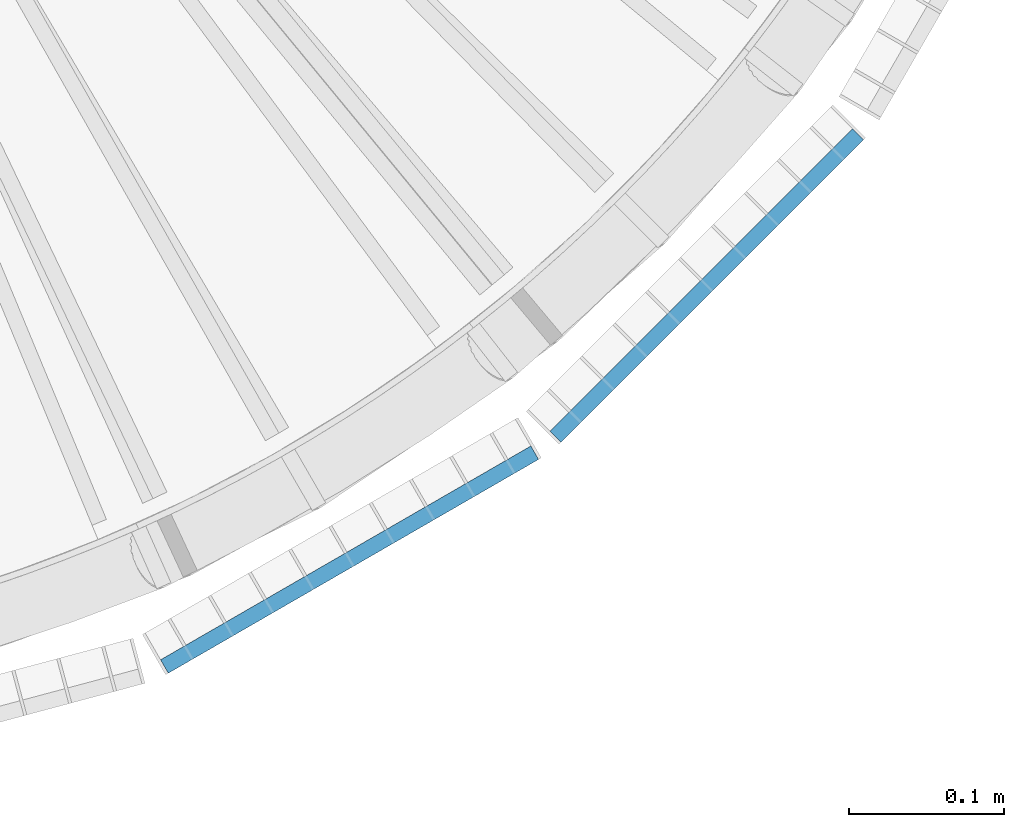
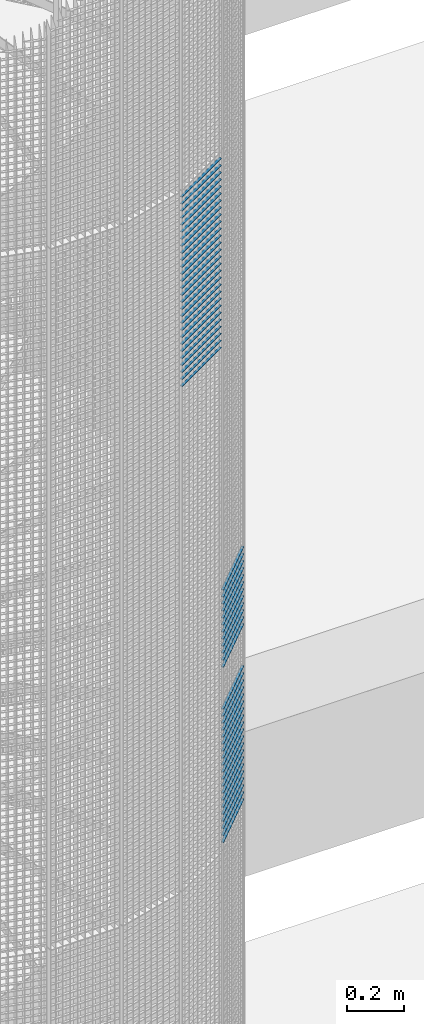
# One storey, part 231 of 1148: 60 beams, 2 elements without a shape of their own.
"""IFC2X3 building model written with IfcOpenShell, lengths in millimetres."""

import ifcopenshell
import ifcopenshell.guid

model = None  # the IFC model being written
_history = None  # IfcOwnerHistory: only IFC2X3 demands one
_inside = {}  # id of a spatial element -> (the spatial element, [elements in it])
_under = {}  # id of a project, library or spatial element -> (it, [spatial elements below it])
_declared = {}  # id of a project -> (the project, [libraries it declares])
_typed = {}  # id of a type object -> (the type object, [elements of that type])
_made_of = {}  # id of a material, layer set ... -> (it, [elements and type objects made of it])


def new_model(schema):
    """Start an empty IFC model of exactly this schema.

    Asked for "IFC4X3", IfcOpenShell would pick the latest addendum, in which some entities
    have other attributes; the version numbers below select the first issue.
    IFC2X3 requires an IfcOwnerHistory on every rooted entity: one is made here for all.
    """
    global model, _history
    if schema == "IFC4X3":
        model = ifcopenshell.file(schema_version=(4, 3, 0, 0))
    else:
        model = ifcopenshell.file(schema=schema)
    _inside.clear()
    _under.clear()
    _declared.clear()
    _typed.clear()
    _made_of.clear()
    _history = None
    if model.schema == "IFC2X3":
        org = make("IfcOrganization", Name="unknown")
        user = make(
            "IfcPersonAndOrganization",
            ThePerson=make("IfcPerson", FamilyName="unknown"),
            TheOrganization=org,
        )
        app = make(
            "IfcApplication",
            ApplicationDeveloper=org,
            Version="unknown",
            ApplicationFullName="unknown",
            ApplicationIdentifier="unknown",
        )
        _history = make(
            "IfcOwnerHistory",
            OwningUser=user,
            OwningApplication=app,
            ChangeAction="ADDED",
            CreationDate=0,
        )
    return model


def make(cls, **values):
    """One entity of the class cls with the attributes given. An attribute that is None is left unset."""
    return model.create_entity(
        cls, **{name: value for name, value in values.items() if value is not None}
    )


def rooted(cls, **values):
    """An entity with a GlobalId (a new one), such as an element, a storey or a relation."""
    return make(cls, GlobalId=ifcopenshell.guid.new(), OwnerHistory=_history, **values)


def si_unit(unit_type, name, prefix=None):
    """IfcSIUnit, for example si_unit("LENGTHUNIT", "METRE", prefix="MILLI")."""
    return make("IfcSIUnit", UnitType=unit_type, Prefix=prefix, Name=name)


def assignment(units):
    """IfcUnitAssignment: the units of a project."""
    return None if units is None else make("IfcUnitAssignment", Units=units)


def point(xyz):
    """IfcCartesianPoint."""
    return None if xyz is None else make("IfcCartesianPoint", Coordinates=xyz)


def direction(xyz):
    """IfcDirection."""
    return None if xyz is None else make("IfcDirection", DirectionRatios=xyz)


def frame(location, z_axis=None, x_axis=None):
    """IfcAxis2Placement3D, a coordinate frame: its origin and axes. An axis left out is left unset."""
    return make(
        "IfcAxis2Placement3D",
        Location=point(location),
        Axis=direction(z_axis),
        RefDirection=direction(x_axis),
    )


def frame_2d(location, x_axis=None):
    """IfcAxis2Placement2D, a coordinate frame in the plane: its origin and x axis."""
    return make(
        "IfcAxis2Placement2D", Location=point(location), RefDirection=direction(x_axis)
    )


def origin_with_axes():
    """The frame at (0, 0, 0) with the z axis (0, 0, 1) and the x axis (1, 0, 0) written out."""
    return frame((0.0, 0.0, 0.0), z_axis=(0.0, 0.0, 1.0), x_axis=(1.0, 0.0, 0.0))


def origin_2d_with_axis():
    """The frame at (0, 0) in the plane with the x axis (1, 0) written out."""
    return frame_2d((0.0, 0.0), x_axis=(1.0, 0.0))


def place(relative_to, where):
    """IfcLocalPlacement: puts the frame where relative to a parent placement (None: the world)."""
    return make(
        "IfcLocalPlacement", PlacementRelTo=relative_to, RelativePlacement=where
    )


def context(
    kind, dimensions, precision=None, world=None, true_north=None, identifier=None
):
    """IfcGeometricRepresentationContext, for example the 3D "Model" context."""
    return make(
        "IfcGeometricRepresentationContext",
        ContextIdentifier=identifier,
        ContextType=kind,
        CoordinateSpaceDimension=dimensions,
        Precision=precision,
        WorldCoordinateSystem=world,
        TrueNorth=true_north,
    )


def subcontext(parent, identifier, kind, view, scale=None):
    """IfcGeometricRepresentationSubContext, for example "Body" below "Model"."""
    return make(
        "IfcGeometricRepresentationSubContext",
        ContextIdentifier=identifier,
        ContextType=kind,
        ParentContext=parent,
        TargetScale=scale,
        TargetView=view,
    )


def project(units=None, contexts=None):
    """IfcProject with its units and contexts."""
    return rooted(
        "IfcProject",
        Name="project",
        RepresentationContexts=contexts,
        UnitsInContext=assignment(units),
    )


def spatial(cls, under=None, at=None, **own):
    """A site, building, storey or space (cls), placed at a placement, below another one or the project."""
    s = rooted(cls, ObjectPlacement=at, **own)
    if under is not None:
        _under.setdefault(under.id(), (under, []))[1].append(s)
    return s


def profile(cls, at=None, kind="AREA", **sizes):
    """A parametric profile (cls). Its sizes go by their IFC names, for example OverallWidth=200.0."""
    return make(cls, ProfileType=kind, Position=at, **sizes)


def rectangle(**sizes):
    """IfcRectangleProfileDef."""
    return profile("IfcRectangleProfileDef", **sizes)


def extrude(swept, where, along, depth):
    """IfcExtrudedAreaSolid: the profile swept, set in the frame where, extruded along a direction by depth."""
    return make(
        "IfcExtrudedAreaSolid",
        SweptArea=swept,
        Position=where,
        ExtrudedDirection=direction(along),
        Depth=depth,
    )


def shape(context_of_items, identifier, shape_type, items):
    """IfcShapeRepresentation: the items that make up one representation, for example the "Body"."""
    return make(
        "IfcShapeRepresentation",
        ContextOfItems=context_of_items,
        RepresentationIdentifier=identifier,
        RepresentationType=shape_type,
        Items=items,
    )


def material(Name=None, Category=None):
    """IfcMaterial."""
    return make("IfcMaterial", Name=Name, Category=Category)


def made_of(thing, what):
    """Note that an element or type object is made of a material, layer set ...; save() writes the relation."""
    if what is not None:
        _made_of.setdefault(what.id(), (what, []))[1].append(thing)
    return thing


def type_object(cls, material=None, **own):
    """A type object (cls), such as IfcWallType, which elements share."""
    return made_of(rooted(cls, **own), material)


def element(
    cls,
    number,
    at=None,
    inside=None,
    cuts=None,
    type_object=None,
    material=None,
    context=None,
    identifier="Body",
    shape_type=None,
    held_by="IfcProductDefinitionShape",
    body=None,
    shapes=None,
    **own,
):
    """One element of the class cls, such as IfcWall. Its Tag is "e" and its number.

    at: its placement. inside: the storey or other place that contains it. cuts: it is an
    opening in that element (IfcRelVoidsElement). A single representation is given by context,
    identifier, shape_type and body (its items); several are given by shapes. held_by: the class
    of the entity that holds the representations. save() writes the other relations.
    """
    e = rooted(cls, Tag="e%d" % number, ObjectPlacement=at, **own)
    if body is not None:
        shapes = [shape(context, identifier, shape_type, body)]
    if shapes is not None:
        e.Representation = make(held_by, Representations=shapes)
    if inside is not None:
        _inside.setdefault(inside.id(), (inside, []))[1].append(e)
    if cuts is not None:
        rooted(
            "IfcRelVoidsElement", RelatingBuildingElement=cuts, RelatedOpeningElement=e
        )
    if type_object is not None:
        _typed.setdefault(type_object.id(), (type_object, []))[1].append(e)
    return made_of(e, material)


def aggregate(whole, parts):
    """IfcRelAggregates: a whole, such as a stair, and the parts it consists of."""
    return rooted("IfcRelAggregates", RelatingObject=whole, RelatedObjects=parts)


def save(model, path):
    """Write the relations noted so far, then the file.

    IfcRelAggregates (storeys below a building ...), IfcRelContainedInSpatialStructure (elements
    in a storey), IfcRelDefinesByType, IfcRelAssociatesMaterial and IfcRelDeclares: one each for
    every whole, place, type object, material and project.
    """
    for whole, parts in _under.values():
        aggregate(whole, parts)
    for where, things in _inside.values():
        rooted(
            "IfcRelContainedInSpatialStructure",
            RelatedElements=things,
            RelatingStructure=where,
        )
    for kind, things in _typed.values():
        rooted("IfcRelDefinesByType", RelatedObjects=things, RelatingType=kind)
    for what, things in _made_of.values():
        rooted("IfcRelAssociatesMaterial", RelatedObjects=things, RelatingMaterial=what)
    for by, libraries in _declared.values():
        rooted("IfcRelDeclares", RelatingContext=by, RelatedDefinitions=libraries)
    model.write(path)


model = new_model("IFC2X3")

# Units and contexts
model_context = context("Model", 3, precision=1e-05, world=origin_with_axes())
body_context = subcontext(model_context, "Body", "Model", "MODEL_VIEW")
ifc_project = project(units=[si_unit("LENGTHUNIT", "METRE", prefix="MILLI"), si_unit("AREAUNIT", "SQUARE_METRE"), si_unit("VOLUMEUNIT", "CUBIC_METRE"), si_unit("MASSUNIT", "GRAM", prefix="KILO"), si_unit("TIMEUNIT", "SECOND"), si_unit("PLANEANGLEUNIT", "RADIAN"), si_unit("SOLIDANGLEUNIT", "STERADIAN"), si_unit("THERMODYNAMICTEMPERATUREUNIT", "DEGREE_CELSIUS"), si_unit("LUMINOUSINTENSITYUNIT", "LUMEN")], contexts=[model_context])

# Site, building, storey
site_placement = place(None, origin_with_axes())
site = spatial("IfcSite", under=ifc_project, at=site_placement, Name="Undefined", CompositionType="ELEMENT")
building_placement = place(site_placement, origin_with_axes())
building = spatial("IfcBuilding", under=site, at=building_placement, Name="Undefined", CompositionType="ELEMENT")
storey_placement = place(building_placement, origin_with_axes())
storey = spatial("IfcBuildingStorey", under=building, at=storey_placement, Name="Undefined", CompositionType="ELEMENT", Elevation=0.0)

# Assembly, beams
assembly_1_placement = place(storey_placement, origin_with_axes())
assembly_1 = element("IfcElementAssembly", 1, at=assembly_1_placement, inside=storey, Name="BORDURE", AssemblyPlace="NOTDEFINED", PredefinedType="NOTDEFINED")
ifc_material = material(Name="STEEL/S235JR")
beam_type = type_object("IfcBeamType", Name="PL2*10", PredefinedType="NOTDEFINED")
beam_1_placement = place(assembly_1_placement, frame((689.771348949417, -884.927168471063, 12780.0), z_axis=(0.707106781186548, -0.707106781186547, 0.0), x_axis=(0.707106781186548, 0.707106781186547, 0.0)))
beam_1 = element("IfcBeam", 2, at=beam_1_placement, type_object=beam_type, material=ifc_material, Name="ENTRETOISE", context=body_context, shape_type="SweptSolid", body=[
    extrude(rectangle(XDim=2.0, YDim=10.0, at=origin_2d_with_axis()), frame((275.999999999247, 9.09494701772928e-13, 1.53210777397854e-14), z_axis=(-1.0, 0.0, 0.0), x_axis=(0.0, -1.0, 0.0)), (0.0, 0.0, 1.0), 276.0),
])
beam_2_placement = place(assembly_1_placement, frame((689.771348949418, -884.927168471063, 12600.0), z_axis=(0.707106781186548, -0.707106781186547, 0.0), x_axis=(0.707106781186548, 0.707106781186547, 0.0)))
beam_2 = element("IfcBeam", 3, at=beam_2_placement, type_object=beam_type, material=ifc_material, Name="ENTRETOISE", context=body_context, shape_type="SweptSolid", body=[
    extrude(rectangle(XDim=2.0, YDim=10.0, at=origin_2d_with_axis()), frame((275.999999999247, 9.09494701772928e-13, 1.53210777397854e-14), z_axis=(-1.0, 0.0, 0.0), x_axis=(0.0, -1.0, 0.0)), (0.0, 0.0, 1.0), 276.0),
])
beam_3_placement = place(assembly_1_placement, frame((689.771348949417, -884.927168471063, 12810.0), z_axis=(0.707106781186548, -0.707106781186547, 0.0), x_axis=(0.707106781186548, 0.707106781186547, 0.0)))
beam_3 = element("IfcBeam", 4, at=beam_3_placement, type_object=beam_type, material=ifc_material, Name="ENTRETOISE", context=body_context, shape_type="SweptSolid", body=[
    extrude(rectangle(XDim=2.0, YDim=10.0, at=origin_2d_with_axis()), frame((275.999999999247, 9.09494701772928e-13, 1.53210777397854e-14), z_axis=(-1.0, 0.0, 0.0), x_axis=(0.0, -1.0, 0.0)), (0.0, 0.0, 1.0), 276.0),
])
beam_4_placement = place(assembly_1_placement, frame((689.771348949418, -884.927168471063, 12570.0), z_axis=(0.707106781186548, -0.707106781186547, 0.0), x_axis=(0.707106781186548, 0.707106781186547, 0.0)))
beam_4 = element("IfcBeam", 5, at=beam_4_placement, type_object=beam_type, material=ifc_material, Name="ENTRETOISE", context=body_context, shape_type="SweptSolid", body=[
    extrude(rectangle(XDim=2.0, YDim=10.0, at=origin_2d_with_axis()), frame((275.999999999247, 9.09494701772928e-13, 1.53210777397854e-14), z_axis=(-1.0, 0.0, 0.0), x_axis=(0.0, -1.0, 0.0)), (0.0, 0.0, 1.0), 276.0),
])
beam_5_placement = place(assembly_1_placement, frame((689.771348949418, -884.927168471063, 12540.0), z_axis=(0.707106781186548, -0.707106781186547, 0.0), x_axis=(0.707106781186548, 0.707106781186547, 0.0)))
beam_5 = element("IfcBeam", 6, at=beam_5_placement, type_object=beam_type, material=ifc_material, Name="ENTRETOISE", context=body_context, shape_type="SweptSolid", body=[
    extrude(rectangle(XDim=2.0, YDim=10.0, at=origin_2d_with_axis()), frame((275.999999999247, 9.09494701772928e-13, 1.53210777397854e-14), z_axis=(-1.0, 0.0, 0.0), x_axis=(0.0, -1.0, 0.0)), (0.0, 0.0, 1.0), 276.0),
])
beam_6_placement = place(assembly_1_placement, frame((689.771348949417, -884.927168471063, 12840.0), z_axis=(0.707106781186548, -0.707106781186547, 0.0), x_axis=(0.707106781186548, 0.707106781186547, 0.0)))
beam_6 = element("IfcBeam", 7, at=beam_6_placement, type_object=beam_type, material=ifc_material, Name="ENTRETOISE", context=body_context, shape_type="SweptSolid", body=[
    extrude(rectangle(XDim=2.0, YDim=10.0, at=origin_2d_with_axis()), frame((275.999999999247, 9.09494701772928e-13, 1.53210777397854e-14), z_axis=(-1.0, 0.0, 0.0), x_axis=(0.0, -1.0, 0.0)), (0.0, 0.0, 1.0), 276.0),
])
beam_7_placement = place(assembly_1_placement, frame((689.771348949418, -884.927168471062, 12510.0), z_axis=(0.707106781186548, -0.707106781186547, 0.0), x_axis=(0.707106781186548, 0.707106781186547, 0.0)))
beam_7 = element("IfcBeam", 8, at=beam_7_placement, type_object=beam_type, material=ifc_material, Name="ENTRETOISE", context=body_context, shape_type="SweptSolid", body=[
    extrude(rectangle(XDim=2.0, YDim=10.0, at=origin_2d_with_axis()), frame((275.999999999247, 9.09494701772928e-13, 1.53210777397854e-14), z_axis=(-1.0, 0.0, 0.0), x_axis=(0.0, -1.0, 0.0)), (0.0, 0.0, 1.0), 276.0),
])
beam_8_placement = place(assembly_1_placement, frame((689.771348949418, -884.927168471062, 12480.0), z_axis=(0.707106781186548, -0.707106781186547, 0.0), x_axis=(0.707106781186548, 0.707106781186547, 0.0)))
beam_8 = element("IfcBeam", 9, at=beam_8_placement, type_object=beam_type, material=ifc_material, Name="ENTRETOISE", context=body_context, shape_type="SweptSolid", body=[
    extrude(rectangle(XDim=2.0, YDim=10.0, at=origin_2d_with_axis()), frame((275.999999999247, 9.09494701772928e-13, 1.53210777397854e-14), z_axis=(-1.0, 0.0, 0.0), x_axis=(0.0, -1.0, 0.0)), (0.0, 0.0, 1.0), 276.0),
])
beam_9_placement = place(assembly_1_placement, frame((689.771348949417, -884.927168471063, 12870.0), z_axis=(0.707106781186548, -0.707106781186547, 0.0), x_axis=(0.707106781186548, 0.707106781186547, 0.0)))
beam_9 = element("IfcBeam", 10, at=beam_9_placement, type_object=beam_type, material=ifc_material, Name="ENTRETOISE", context=body_context, shape_type="SweptSolid", body=[
    extrude(rectangle(XDim=2.0, YDim=10.0, at=origin_2d_with_axis()), frame((275.999999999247, 9.09494701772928e-13, 1.53210777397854e-14), z_axis=(-1.0, 0.0, 0.0), x_axis=(0.0, -1.0, 0.0)), (0.0, 0.0, 1.0), 276.0),
])
beam_10_placement = place(assembly_1_placement, frame((689.771348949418, -884.927168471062, 12450.0), z_axis=(0.707106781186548, -0.707106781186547, 0.0), x_axis=(0.707106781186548, 0.707106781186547, 0.0)))
beam_10 = element("IfcBeam", 11, at=beam_10_placement, type_object=beam_type, material=ifc_material, Name="ENTRETOISE", context=body_context, shape_type="SweptSolid", body=[
    extrude(rectangle(XDim=2.0, YDim=10.0, at=origin_2d_with_axis()), frame((275.999999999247, 9.09494701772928e-13, 1.53210777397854e-14), z_axis=(-1.0, 0.0, 0.0), x_axis=(0.0, -1.0, 0.0)), (0.0, 0.0, 1.0), 276.0),
])
beam_11_placement = place(assembly_1_placement, frame((689.771348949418, -884.927168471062, 12420.0), z_axis=(0.707106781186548, -0.707106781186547, 0.0), x_axis=(0.707106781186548, 0.707106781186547, 0.0)))
beam_11 = element("IfcBeam", 12, at=beam_11_placement, type_object=beam_type, material=ifc_material, Name="ENTRETOISE", context=body_context, shape_type="SweptSolid", body=[
    extrude(rectangle(XDim=2.0, YDim=10.0, at=origin_2d_with_axis()), frame((275.999999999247, 9.09494701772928e-13, 1.53210777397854e-14), z_axis=(-1.0, 0.0, 0.0), x_axis=(0.0, -1.0, 0.0)), (0.0, 0.0, 1.0), 276.0),
])
beam_12_placement = place(assembly_1_placement, frame((689.771348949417, -884.927168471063, 12900.0), z_axis=(0.707106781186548, -0.707106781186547, 0.0), x_axis=(0.707106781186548, 0.707106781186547, 0.0)))
beam_12 = element("IfcBeam", 13, at=beam_12_placement, type_object=beam_type, material=ifc_material, Name="ENTRETOISE", context=body_context, shape_type="SweptSolid", body=[
    extrude(rectangle(XDim=2.0, YDim=10.0, at=origin_2d_with_axis()), frame((275.999999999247, 9.09494701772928e-13, 1.53210777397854e-14), z_axis=(-1.0, 0.0, 0.0), x_axis=(0.0, -1.0, 0.0)), (0.0, 0.0, 1.0), 276.0),
])
beam_13_placement = place(assembly_1_placement, frame((689.771348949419, -884.927168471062, 12390.0), z_axis=(0.707106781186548, -0.707106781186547, 0.0), x_axis=(0.707106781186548, 0.707106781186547, 0.0)))
beam_13 = element("IfcBeam", 14, at=beam_13_placement, type_object=beam_type, material=ifc_material, Name="ENTRETOISE", context=body_context, shape_type="SweptSolid", body=[
    extrude(rectangle(XDim=2.0, YDim=10.0, at=origin_2d_with_axis()), frame((275.999999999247, 9.09494701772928e-13, 1.53210777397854e-14), z_axis=(-1.0, 0.0, 0.0), x_axis=(0.0, -1.0, 0.0)), (0.0, 0.0, 1.0), 276.0),
])
beam_14_placement = place(assembly_1_placement, frame((689.771348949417, -884.927168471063, 12930.0), z_axis=(0.707106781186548, -0.707106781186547, 0.0), x_axis=(0.707106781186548, 0.707106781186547, 0.0)))
beam_14 = element("IfcBeam", 15, at=beam_14_placement, type_object=beam_type, material=ifc_material, Name="ENTRETOISE", context=body_context, shape_type="SweptSolid", body=[
    extrude(rectangle(XDim=2.0, YDim=10.0, at=origin_2d_with_axis()), frame((275.999999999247, 9.09494701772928e-13, 1.53210777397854e-14), z_axis=(-1.0, 0.0, 0.0), x_axis=(0.0, -1.0, 0.0)), (0.0, 0.0, 1.0), 276.0),
])
beam_15_placement = place(assembly_1_placement, frame((689.771348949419, -884.927168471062, 12360.0), z_axis=(0.707106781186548, -0.707106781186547, 0.0), x_axis=(0.707106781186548, 0.707106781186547, 0.0)))
beam_15 = element("IfcBeam", 16, at=beam_15_placement, type_object=beam_type, material=ifc_material, Name="ENTRETOISE", context=body_context, shape_type="SweptSolid", body=[
    extrude(rectangle(XDim=2.0, YDim=10.0, at=origin_2d_with_axis()), frame((275.999999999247, 9.09494701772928e-13, 1.53210777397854e-14), z_axis=(-1.0, 0.0, 0.0), x_axis=(0.0, -1.0, 0.0)), (0.0, 0.0, 1.0), 276.0),
])
beam_16_placement = place(assembly_1_placement, frame((689.771348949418, -884.927168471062, 12330.0), z_axis=(0.707106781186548, -0.707106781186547, 0.0), x_axis=(0.707106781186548, 0.707106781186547, 0.0)))
beam_16 = element("IfcBeam", 17, at=beam_16_placement, type_object=beam_type, material=ifc_material, Name="ENTRETOISE", context=body_context, shape_type="SweptSolid", body=[
    extrude(rectangle(XDim=2.0, YDim=10.0, at=origin_2d_with_axis()), frame((275.999999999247, 9.09494701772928e-13, 1.53210777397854e-14), z_axis=(-1.0, 0.0, 0.0), x_axis=(0.0, -1.0, 0.0)), (0.0, 0.0, 1.0), 276.0),
])
beam_17_placement = place(assembly_1_placement, frame((689.771348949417, -884.927168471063, 12960.0), z_axis=(0.707106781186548, -0.707106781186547, 0.0), x_axis=(0.707106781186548, 0.707106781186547, 0.0)))
beam_17 = element("IfcBeam", 18, at=beam_17_placement, type_object=beam_type, material=ifc_material, Name="ENTRETOISE", context=body_context, shape_type="SweptSolid", body=[
    extrude(rectangle(XDim=2.0, YDim=10.0, at=origin_2d_with_axis()), frame((275.999999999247, 9.09494701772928e-13, 1.53210777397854e-14), z_axis=(-1.0, 0.0, 0.0), x_axis=(0.0, -1.0, 0.0)), (0.0, 0.0, 1.0), 276.0),
])
beam_18_placement = place(assembly_1_placement, frame((689.771348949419, -884.927168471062, 12300.0), z_axis=(0.707106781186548, -0.707106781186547, 0.0), x_axis=(0.707106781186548, 0.707106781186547, 0.0)))
beam_18 = element("IfcBeam", 19, at=beam_18_placement, type_object=beam_type, material=ifc_material, Name="ENTRETOISE", context=body_context, shape_type="SweptSolid", body=[
    extrude(rectangle(XDim=2.0, YDim=10.0, at=origin_2d_with_axis()), frame((275.999999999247, 9.09494701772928e-13, 1.53210777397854e-14), z_axis=(-1.0, 0.0, 0.0), x_axis=(0.0, -1.0, 0.0)), (0.0, 0.0, 1.0), 276.0),
])
beam_19_placement = place(assembly_1_placement, frame((689.771348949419, -884.927168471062, 12270.0), z_axis=(0.707106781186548, -0.707106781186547, 0.0), x_axis=(0.707106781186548, 0.707106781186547, 0.0)))
beam_19 = element("IfcBeam", 20, at=beam_19_placement, type_object=beam_type, material=ifc_material, Name="ENTRETOISE", context=body_context, shape_type="SweptSolid", body=[
    extrude(rectangle(XDim=2.0, YDim=10.0, at=origin_2d_with_axis()), frame((275.999999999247, 9.09494701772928e-13, 1.53210777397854e-14), z_axis=(-1.0, 0.0, 0.0), x_axis=(0.0, -1.0, 0.0)), (0.0, 0.0, 1.0), 276.0),
])
beam_20_placement = place(assembly_1_placement, frame((689.771348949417, -884.927168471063, 12990.0), z_axis=(0.707106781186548, -0.707106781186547, 0.0), x_axis=(0.707106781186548, 0.707106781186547, 0.0)))
beam_20 = element("IfcBeam", 21, at=beam_20_placement, type_object=beam_type, material=ifc_material, Name="ENTRETOISE", context=body_context, shape_type="SweptSolid", body=[
    extrude(rectangle(XDim=2.0, YDim=10.0, at=origin_2d_with_axis()), frame((275.999999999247, 9.09494701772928e-13, 1.53210777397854e-14), z_axis=(-1.0, 0.0, 0.0), x_axis=(0.0, -1.0, 0.0)), (0.0, 0.0, 1.0), 276.0),
])
beam_21_placement = place(assembly_1_placement, frame((689.771348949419, -884.927168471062, 12240.0), z_axis=(0.707106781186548, -0.707106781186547, 0.0), x_axis=(0.707106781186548, 0.707106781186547, 0.0)))
beam_21 = element("IfcBeam", 22, at=beam_21_placement, type_object=beam_type, material=ifc_material, Name="ENTRETOISE", context=body_context, shape_type="SweptSolid", body=[
    extrude(rectangle(XDim=2.0, YDim=10.0, at=origin_2d_with_axis()), frame((275.999999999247, 9.09494701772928e-13, 1.53210777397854e-14), z_axis=(-1.0, 0.0, 0.0), x_axis=(0.0, -1.0, 0.0)), (0.0, 0.0, 1.0), 276.0),
])
beam_22_placement = place(assembly_1_placement, frame((689.771348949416, -884.927168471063, 13020.0), z_axis=(0.707106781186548, -0.707106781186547, 0.0), x_axis=(0.707106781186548, 0.707106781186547, 0.0)))
beam_22 = element("IfcBeam", 23, at=beam_22_placement, type_object=beam_type, material=ifc_material, Name="ENTRETOISE", context=body_context, shape_type="SweptSolid", body=[
    extrude(rectangle(XDim=2.0, YDim=10.0, at=origin_2d_with_axis()), frame((275.999999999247, 9.09494701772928e-13, 1.53210777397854e-14), z_axis=(-1.0, 0.0, 0.0), x_axis=(0.0, -1.0, 0.0)), (0.0, 0.0, 1.0), 276.0),
])
beam_23_placement = place(assembly_1_placement, frame((689.771348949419, -884.927168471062, 12210.0), z_axis=(0.707106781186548, -0.707106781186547, 0.0), x_axis=(0.707106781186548, 0.707106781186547, 0.0)))
beam_23 = element("IfcBeam", 24, at=beam_23_placement, type_object=beam_type, material=ifc_material, Name="ENTRETOISE", context=body_context, shape_type="SweptSolid", body=[
    extrude(rectangle(XDim=2.0, YDim=10.0, at=origin_2d_with_axis()), frame((275.999999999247, 9.09494701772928e-13, 1.53210777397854e-14), z_axis=(-1.0, 0.0, 0.0), x_axis=(0.0, -1.0, 0.0)), (0.0, 0.0, 1.0), 276.0),
])
beam_24_placement = place(assembly_1_placement, frame((689.771348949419, -884.927168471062, 12180.0), z_axis=(0.707106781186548, -0.707106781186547, 0.0), x_axis=(0.707106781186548, 0.707106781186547, 0.0)))
beam_24 = element("IfcBeam", 25, at=beam_24_placement, type_object=beam_type, material=ifc_material, Name="ENTRETOISE", context=body_context, shape_type="SweptSolid", body=[
    extrude(rectangle(XDim=2.0, YDim=10.0, at=origin_2d_with_axis()), frame((275.999999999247, 9.09494701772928e-13, 1.53210777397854e-14), z_axis=(-1.0, 0.0, 0.0), x_axis=(0.0, -1.0, 0.0)), (0.0, 0.0, 1.0), 276.0),
])
beam_25_placement = place(assembly_1_placement, frame((689.771348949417, -884.927168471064, 13050.0), z_axis=(0.707106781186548, -0.707106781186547, 0.0), x_axis=(0.707106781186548, 0.707106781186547, 0.0)))
beam_25 = element("IfcBeam", 26, at=beam_25_placement, type_object=beam_type, material=ifc_material, Name="ENTRETOISE", context=body_context, shape_type="SweptSolid", body=[
    extrude(rectangle(XDim=2.0, YDim=10.0, at=origin_2d_with_axis()), frame((275.999999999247, 9.09494701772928e-13, 1.53210777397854e-14), z_axis=(-1.0, 0.0, 0.0), x_axis=(0.0, -1.0, 0.0)), (0.0, 0.0, 1.0), 276.0),
])
beam_26_placement = place(assembly_1_placement, frame((689.771348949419, -884.927168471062, 12150.0), z_axis=(0.707106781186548, -0.707106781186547, 0.0), x_axis=(0.707106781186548, 0.707106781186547, 0.0)))
beam_26 = element("IfcBeam", 27, at=beam_26_placement, type_object=beam_type, material=ifc_material, Name="ENTRETOISE", context=body_context, shape_type="SweptSolid", body=[
    extrude(rectangle(XDim=2.0, YDim=10.0, at=origin_2d_with_axis()), frame((275.999999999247, 9.09494701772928e-13, 1.53210777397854e-14), z_axis=(-1.0, 0.0, 0.0), x_axis=(0.0, -1.0, 0.0)), (0.0, 0.0, 1.0), 276.0),
])
beam_27_placement = place(assembly_1_placement, frame((689.771348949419, -884.927168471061, 12120.0), z_axis=(0.707106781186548, -0.707106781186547, 0.0), x_axis=(0.707106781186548, 0.707106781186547, 0.0)))
beam_27 = element("IfcBeam", 28, at=beam_27_placement, type_object=beam_type, material=ifc_material, Name="ENTRETOISE", context=body_context, shape_type="SweptSolid", body=[
    extrude(rectangle(XDim=2.0, YDim=10.0, at=origin_2d_with_axis()), frame((275.999999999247, 9.09494701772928e-13, 1.53210777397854e-14), z_axis=(-1.0, 0.0, 0.0), x_axis=(0.0, -1.0, 0.0)), (0.0, 0.0, 1.0), 276.0),
])
beam_28_placement = place(assembly_1_placement, frame((689.771348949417, -884.927168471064, 13080.0), z_axis=(0.707106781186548, -0.707106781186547, 0.0), x_axis=(0.707106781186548, 0.707106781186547, 0.0)))
beam_28 = element("IfcBeam", 29, at=beam_28_placement, type_object=beam_type, material=ifc_material, Name="ENTRETOISE", context=body_context, shape_type="SweptSolid", body=[
    extrude(rectangle(XDim=2.0, YDim=10.0, at=origin_2d_with_axis()), frame((275.999999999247, 9.09494701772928e-13, 1.53210777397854e-14), z_axis=(-1.0, 0.0, 0.0), x_axis=(0.0, -1.0, 0.0)), (0.0, 0.0, 1.0), 276.0),
])
beam_29_placement = place(assembly_1_placement, frame((689.771348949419, -884.927168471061, 12090.0), z_axis=(0.707106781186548, -0.707106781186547, 0.0), x_axis=(0.707106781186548, 0.707106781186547, 0.0)))
beam_29 = element("IfcBeam", 30, at=beam_29_placement, type_object=beam_type, material=ifc_material, Name="ENTRETOISE", context=body_context, shape_type="SweptSolid", body=[
    extrude(rectangle(XDim=2.0, YDim=10.0, at=origin_2d_with_axis()), frame((275.999999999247, 9.09494701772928e-13, 1.53210777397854e-14), z_axis=(-1.0, 0.0, 0.0), x_axis=(0.0, -1.0, 0.0)), (0.0, 0.0, 1.0), 276.0),
])
beam_30_placement = place(assembly_1_placement, frame((689.771348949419, -884.927168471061, 12060.0), z_axis=(0.707106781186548, -0.707106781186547, 0.0), x_axis=(0.707106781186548, 0.707106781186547, 0.0)))
beam_30 = element("IfcBeam", 31, at=beam_30_placement, type_object=beam_type, material=ifc_material, Name="ENTRETOISE", context=body_context, shape_type="SweptSolid", body=[
    extrude(rectangle(XDim=2.0, YDim=10.0, at=origin_2d_with_axis()), frame((275.999999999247, 9.09494701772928e-13, 1.53210777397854e-14), z_axis=(-1.0, 0.0, 0.0), x_axis=(0.0, -1.0, 0.0)), (0.0, 0.0, 1.0), 276.0),
])
beam_31_placement = place(assembly_1_placement, frame((689.771348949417, -884.927168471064, 13110.0), z_axis=(0.707106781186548, -0.707106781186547, 0.0), x_axis=(0.707106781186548, 0.707106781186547, 0.0)))
beam_31 = element("IfcBeam", 32, at=beam_31_placement, type_object=beam_type, material=ifc_material, Name="ENTRETOISE", context=body_context, shape_type="SweptSolid", body=[
    extrude(rectangle(XDim=2.0, YDim=10.0, at=origin_2d_with_axis()), frame((275.999999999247, 9.09494701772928e-13, 1.53210777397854e-14), z_axis=(-1.0, 0.0, 0.0), x_axis=(0.0, -1.0, 0.0)), (0.0, 0.0, 1.0), 276.0),
])
beam_32_placement = place(assembly_1_placement, frame((689.77134894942, -884.92716847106, 12030.0), z_axis=(0.707106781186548, -0.707106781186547, 0.0), x_axis=(0.707106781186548, 0.707106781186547, 0.0)))
beam_32 = element("IfcBeam", 33, at=beam_32_placement, type_object=beam_type, material=ifc_material, Name="ENTRETOISE", context=body_context, shape_type="SweptSolid", body=[
    extrude(rectangle(XDim=2.0, YDim=10.0, at=origin_2d_with_axis()), frame((275.999999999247, 9.09494701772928e-13, 1.53210777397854e-14), z_axis=(-1.0, 0.0, 0.0), x_axis=(0.0, -1.0, 0.0)), (0.0, 0.0, 1.0), 276.0),
])
aggregate(assembly_1, [beam_1, beam_2, beam_3, beam_4, beam_5, beam_6, beam_7, beam_8, beam_9, beam_10, beam_11, beam_12, beam_13, beam_14, beam_15, beam_16, beam_17, beam_18, beam_19, beam_20, beam_21, beam_22, beam_23, beam_24, beam_25, beam_26, beam_27, beam_28, beam_29, beam_30, beam_31, beam_32])

assembly_2_placement = place(storey_placement, origin_with_axes())
assembly_2 = element("IfcElementAssembly", 34, at=assembly_2_placement, inside=storey, Name="BORDURE", AssemblyPlace="NOTDEFINED", PredefinedType="NOTDEFINED")
beam_33_placement = place(assembly_2_placement, frame((437.231955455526, -1033.29996828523, 14970.0), z_axis=(0.499999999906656, -0.866025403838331, 0.0), x_axis=(0.866025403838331, 0.499999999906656, 0.0)))
beam_33 = element("IfcBeam", 35, at=beam_33_placement, type_object=beam_type, material=ifc_material, Name="ENTRETOISE", context=body_context, shape_type="SweptSolid", body=[
    extrude(rectangle(XDim=2.0, YDim=10.0, at=origin_2d_with_axis()), frame((275.999999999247, 9.09494701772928e-13, 1.53210777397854e-14), z_axis=(-1.0, 0.0, 0.0), x_axis=(0.0, -1.0, 0.0)), (0.0, 0.0, 1.0), 276.0),
])
beam_34_placement = place(assembly_2_placement, frame((437.231955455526, -1033.29996828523, 14940.0), z_axis=(0.499999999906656, -0.866025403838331, 0.0), x_axis=(0.866025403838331, 0.499999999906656, 0.0)))
beam_34 = element("IfcBeam", 36, at=beam_34_placement, type_object=beam_type, material=ifc_material, Name="ENTRETOISE", context=body_context, shape_type="SweptSolid", body=[
    extrude(rectangle(XDim=2.0, YDim=10.0, at=origin_2d_with_axis()), frame((275.999999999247, 9.09494701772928e-13, 1.53210777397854e-14), z_axis=(-1.0, 0.0, 0.0), x_axis=(0.0, -1.0, 0.0)), (0.0, 0.0, 1.0), 276.0),
])
beam_35_placement = place(assembly_2_placement, frame((437.231955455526, -1033.29996828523, 14910.0), z_axis=(0.499999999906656, -0.866025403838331, 0.0), x_axis=(0.866025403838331, 0.499999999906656, 0.0)))
beam_35 = element("IfcBeam", 37, at=beam_35_placement, type_object=beam_type, material=ifc_material, Name="ENTRETOISE", context=body_context, shape_type="SweptSolid", body=[
    extrude(rectangle(XDim=2.0, YDim=10.0, at=origin_2d_with_axis()), frame((275.999999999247, 9.09494701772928e-13, 1.53210777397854e-14), z_axis=(-1.0, 0.0, 0.0), x_axis=(0.0, -1.0, 0.0)), (0.0, 0.0, 1.0), 276.0),
])
beam_36_placement = place(assembly_2_placement, frame((437.231955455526, -1033.29996828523, 14880.0), z_axis=(0.499999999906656, -0.866025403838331, 0.0), x_axis=(0.866025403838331, 0.499999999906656, 0.0)))
beam_36 = element("IfcBeam", 38, at=beam_36_placement, type_object=beam_type, material=ifc_material, Name="ENTRETOISE", context=body_context, shape_type="SweptSolid", body=[
    extrude(rectangle(XDim=2.0, YDim=10.0, at=origin_2d_with_axis()), frame((275.999999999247, 9.09494701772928e-13, 1.53210777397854e-14), z_axis=(-1.0, 0.0, 0.0), x_axis=(0.0, -1.0, 0.0)), (0.0, 0.0, 1.0), 276.0),
])
beam_37_placement = place(assembly_2_placement, frame((437.231955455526, -1033.29996828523, 14850.0), z_axis=(0.499999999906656, -0.866025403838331, 0.0), x_axis=(0.866025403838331, 0.499999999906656, 0.0)))
beam_37 = element("IfcBeam", 39, at=beam_37_placement, type_object=beam_type, material=ifc_material, Name="ENTRETOISE", context=body_context, shape_type="SweptSolid", body=[
    extrude(rectangle(XDim=2.0, YDim=10.0, at=origin_2d_with_axis()), frame((275.999999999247, 9.09494701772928e-13, 1.53210777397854e-14), z_axis=(-1.0, 0.0, 0.0), x_axis=(0.0, -1.0, 0.0)), (0.0, 0.0, 1.0), 276.0),
])
beam_38_placement = place(assembly_2_placement, frame((437.231955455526, -1033.29996828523, 14820.0), z_axis=(0.499999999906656, -0.866025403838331, 0.0), x_axis=(0.866025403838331, 0.499999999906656, 0.0)))
beam_38 = element("IfcBeam", 40, at=beam_38_placement, type_object=beam_type, material=ifc_material, Name="ENTRETOISE", context=body_context, shape_type="SweptSolid", body=[
    extrude(rectangle(XDim=2.0, YDim=10.0, at=origin_2d_with_axis()), frame((275.999999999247, 9.09494701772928e-13, 1.53210777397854e-14), z_axis=(-1.0, 0.0, 0.0), x_axis=(0.0, -1.0, 0.0)), (0.0, 0.0, 1.0), 276.0),
])
beam_39_placement = place(assembly_2_placement, frame((437.231955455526, -1033.29996828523, 14790.0), z_axis=(0.499999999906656, -0.866025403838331, 0.0), x_axis=(0.866025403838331, 0.499999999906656, 0.0)))
beam_39 = element("IfcBeam", 41, at=beam_39_placement, type_object=beam_type, material=ifc_material, Name="ENTRETOISE", context=body_context, shape_type="SweptSolid", body=[
    extrude(rectangle(XDim=2.0, YDim=10.0, at=origin_2d_with_axis()), frame((275.999999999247, 9.09494701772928e-13, 1.53210777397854e-14), z_axis=(-1.0, 0.0, 0.0), x_axis=(0.0, -1.0, 0.0)), (0.0, 0.0, 1.0), 276.0),
])
beam_40_placement = place(assembly_2_placement, frame((437.231955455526, -1033.29996828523, 14760.0), z_axis=(0.499999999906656, -0.866025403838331, 0.0), x_axis=(0.866025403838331, 0.499999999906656, 0.0)))
beam_40 = element("IfcBeam", 42, at=beam_40_placement, type_object=beam_type, material=ifc_material, Name="ENTRETOISE", context=body_context, shape_type="SweptSolid", body=[
    extrude(rectangle(XDim=2.0, YDim=10.0, at=origin_2d_with_axis()), frame((275.999999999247, 9.09494701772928e-13, 1.53210777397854e-14), z_axis=(-1.0, 0.0, 0.0), x_axis=(0.0, -1.0, 0.0)), (0.0, 0.0, 1.0), 276.0),
])
beam_41_placement = place(assembly_2_placement, frame((437.231955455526, -1033.29996828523, 14730.0), z_axis=(0.499999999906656, -0.866025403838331, 0.0), x_axis=(0.866025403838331, 0.499999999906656, 0.0)))
beam_41 = element("IfcBeam", 43, at=beam_41_placement, type_object=beam_type, material=ifc_material, Name="ENTRETOISE", context=body_context, shape_type="SweptSolid", body=[
    extrude(rectangle(XDim=2.0, YDim=10.0, at=origin_2d_with_axis()), frame((275.999999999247, 9.09494701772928e-13, 1.53210777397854e-14), z_axis=(-1.0, 0.0, 0.0), x_axis=(0.0, -1.0, 0.0)), (0.0, 0.0, 1.0), 276.0),
])
beam_42_placement = place(assembly_2_placement, frame((437.231955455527, -1033.29996828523, 14700.0), z_axis=(0.499999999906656, -0.866025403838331, 0.0), x_axis=(0.866025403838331, 0.499999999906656, 0.0)))
beam_42 = element("IfcBeam", 44, at=beam_42_placement, type_object=beam_type, material=ifc_material, Name="ENTRETOISE", context=body_context, shape_type="SweptSolid", body=[
    extrude(rectangle(XDim=2.0, YDim=10.0, at=origin_2d_with_axis()), frame((275.999999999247, 9.09494701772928e-13, 1.53210777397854e-14), z_axis=(-1.0, 0.0, 0.0), x_axis=(0.0, -1.0, 0.0)), (0.0, 0.0, 1.0), 276.0),
])
beam_43_placement = place(assembly_2_placement, frame((437.231955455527, -1033.29996828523, 14670.0), z_axis=(0.499999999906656, -0.866025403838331, 0.0), x_axis=(0.866025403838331, 0.499999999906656, 0.0)))
beam_43 = element("IfcBeam", 45, at=beam_43_placement, type_object=beam_type, material=ifc_material, Name="ENTRETOISE", context=body_context, shape_type="SweptSolid", body=[
    extrude(rectangle(XDim=2.0, YDim=10.0, at=origin_2d_with_axis()), frame((275.999999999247, 9.09494701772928e-13, 1.53210777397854e-14), z_axis=(-1.0, 0.0, 0.0), x_axis=(0.0, -1.0, 0.0)), (0.0, 0.0, 1.0), 276.0),
])
beam_44_placement = place(assembly_2_placement, frame((437.231955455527, -1033.29996828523, 14640.0), z_axis=(0.499999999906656, -0.866025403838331, 0.0), x_axis=(0.866025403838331, 0.499999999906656, 0.0)))
beam_44 = element("IfcBeam", 46, at=beam_44_placement, type_object=beam_type, material=ifc_material, Name="ENTRETOISE", context=body_context, shape_type="SweptSolid", body=[
    extrude(rectangle(XDim=2.0, YDim=10.0, at=origin_2d_with_axis()), frame((275.999999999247, 9.09494701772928e-13, 1.53210777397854e-14), z_axis=(-1.0, 0.0, 0.0), x_axis=(0.0, -1.0, 0.0)), (0.0, 0.0, 1.0), 276.0),
])
beam_45_placement = place(assembly_2_placement, frame((437.231955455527, -1033.29996828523, 14610.0), z_axis=(0.499999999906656, -0.866025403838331, 0.0), x_axis=(0.866025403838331, 0.499999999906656, 0.0)))
beam_45 = element("IfcBeam", 47, at=beam_45_placement, type_object=beam_type, material=ifc_material, Name="ENTRETOISE", context=body_context, shape_type="SweptSolid", body=[
    extrude(rectangle(XDim=2.0, YDim=10.0, at=origin_2d_with_axis()), frame((275.999999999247, 9.09494701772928e-13, 1.53210777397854e-14), z_axis=(-1.0, 0.0, 0.0), x_axis=(0.0, -1.0, 0.0)), (0.0, 0.0, 1.0), 276.0),
])
beam_46_placement = place(assembly_2_placement, frame((437.231955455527, -1033.29996828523, 14580.0), z_axis=(0.499999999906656, -0.866025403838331, 0.0), x_axis=(0.866025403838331, 0.499999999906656, 0.0)))
beam_46 = element("IfcBeam", 48, at=beam_46_placement, type_object=beam_type, material=ifc_material, Name="ENTRETOISE", context=body_context, shape_type="SweptSolid", body=[
    extrude(rectangle(XDim=2.0, YDim=10.0, at=origin_2d_with_axis()), frame((275.999999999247, 9.09494701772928e-13, 1.53210777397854e-14), z_axis=(-1.0, 0.0, 0.0), x_axis=(0.0, -1.0, 0.0)), (0.0, 0.0, 1.0), 276.0),
])
beam_47_placement = place(assembly_2_placement, frame((437.231955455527, -1033.29996828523, 14550.0), z_axis=(0.499999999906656, -0.866025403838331, 0.0), x_axis=(0.866025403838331, 0.499999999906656, 0.0)))
beam_47 = element("IfcBeam", 49, at=beam_47_placement, type_object=beam_type, material=ifc_material, Name="ENTRETOISE", context=body_context, shape_type="SweptSolid", body=[
    extrude(rectangle(XDim=2.0, YDim=10.0, at=origin_2d_with_axis()), frame((275.999999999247, 9.09494701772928e-13, 1.53210777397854e-14), z_axis=(-1.0, 0.0, 0.0), x_axis=(0.0, -1.0, 0.0)), (0.0, 0.0, 1.0), 276.0),
])
beam_48_placement = place(assembly_2_placement, frame((437.231955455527, -1033.29996828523, 14520.0), z_axis=(0.499999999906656, -0.866025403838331, 0.0), x_axis=(0.866025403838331, 0.499999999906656, 0.0)))
beam_48 = element("IfcBeam", 50, at=beam_48_placement, type_object=beam_type, material=ifc_material, Name="ENTRETOISE", context=body_context, shape_type="SweptSolid", body=[
    extrude(rectangle(XDim=2.0, YDim=10.0, at=origin_2d_with_axis()), frame((275.999999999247, 9.09494701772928e-13, 1.53210777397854e-14), z_axis=(-1.0, 0.0, 0.0), x_axis=(0.0, -1.0, 0.0)), (0.0, 0.0, 1.0), 276.0),
])
beam_49_placement = place(assembly_2_placement, frame((437.231955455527, -1033.29996828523, 14490.0), z_axis=(0.499999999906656, -0.866025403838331, 0.0), x_axis=(0.866025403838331, 0.499999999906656, 0.0)))
beam_49 = element("IfcBeam", 51, at=beam_49_placement, type_object=beam_type, material=ifc_material, Name="ENTRETOISE", context=body_context, shape_type="SweptSolid", body=[
    extrude(rectangle(XDim=2.0, YDim=10.0, at=origin_2d_with_axis()), frame((275.999999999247, 9.09494701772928e-13, 1.53210777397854e-14), z_axis=(-1.0, 0.0, 0.0), x_axis=(0.0, -1.0, 0.0)), (0.0, 0.0, 1.0), 276.0),
])
beam_50_placement = place(assembly_2_placement, frame((437.231955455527, -1033.29996828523, 14460.0), z_axis=(0.499999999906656, -0.866025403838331, 0.0), x_axis=(0.866025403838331, 0.499999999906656, 0.0)))
beam_50 = element("IfcBeam", 52, at=beam_50_placement, type_object=beam_type, material=ifc_material, Name="ENTRETOISE", context=body_context, shape_type="SweptSolid", body=[
    extrude(rectangle(XDim=2.0, YDim=10.0, at=origin_2d_with_axis()), frame((275.999999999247, 9.09494701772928e-13, 1.53210777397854e-14), z_axis=(-1.0, 0.0, 0.0), x_axis=(0.0, -1.0, 0.0)), (0.0, 0.0, 1.0), 276.0),
])
beam_51_placement = place(assembly_2_placement, frame((437.231955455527, -1033.29996828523, 14430.0), z_axis=(0.499999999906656, -0.866025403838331, 0.0), x_axis=(0.866025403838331, 0.499999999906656, 0.0)))
beam_51 = element("IfcBeam", 53, at=beam_51_placement, type_object=beam_type, material=ifc_material, Name="ENTRETOISE", context=body_context, shape_type="SweptSolid", body=[
    extrude(rectangle(XDim=2.0, YDim=10.0, at=origin_2d_with_axis()), frame((275.999999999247, 9.09494701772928e-13, 1.53210777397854e-14), z_axis=(-1.0, 0.0, 0.0), x_axis=(0.0, -1.0, 0.0)), (0.0, 0.0, 1.0), 276.0),
])
beam_52_placement = place(assembly_2_placement, frame((437.231955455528, -1033.29996828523, 14400.0), z_axis=(0.499999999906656, -0.866025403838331, 0.0), x_axis=(0.866025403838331, 0.499999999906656, 0.0)))
beam_52 = element("IfcBeam", 54, at=beam_52_placement, type_object=beam_type, material=ifc_material, Name="ENTRETOISE", context=body_context, shape_type="SweptSolid", body=[
    extrude(rectangle(XDim=2.0, YDim=10.0, at=origin_2d_with_axis()), frame((275.999999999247, 9.09494701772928e-13, 1.53210777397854e-14), z_axis=(-1.0, 0.0, 0.0), x_axis=(0.0, -1.0, 0.0)), (0.0, 0.0, 1.0), 276.0),
])
beam_53_placement = place(assembly_2_placement, frame((437.231955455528, -1033.29996828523, 14370.0), z_axis=(0.499999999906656, -0.866025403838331, 0.0), x_axis=(0.866025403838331, 0.499999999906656, 0.0)))
beam_53 = element("IfcBeam", 55, at=beam_53_placement, type_object=beam_type, material=ifc_material, Name="ENTRETOISE", context=body_context, shape_type="SweptSolid", body=[
    extrude(rectangle(XDim=2.0, YDim=10.0, at=origin_2d_with_axis()), frame((275.999999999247, 9.09494701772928e-13, 1.53210777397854e-14), z_axis=(-1.0, 0.0, 0.0), x_axis=(0.0, -1.0, 0.0)), (0.0, 0.0, 1.0), 276.0),
])
beam_54_placement = place(assembly_2_placement, frame((437.231955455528, -1033.29996828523, 14340.0), z_axis=(0.499999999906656, -0.866025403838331, 0.0), x_axis=(0.866025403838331, 0.499999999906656, 0.0)))
beam_54 = element("IfcBeam", 56, at=beam_54_placement, type_object=beam_type, material=ifc_material, Name="ENTRETOISE", context=body_context, shape_type="SweptSolid", body=[
    extrude(rectangle(XDim=2.0, YDim=10.0, at=origin_2d_with_axis()), frame((275.999999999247, 9.09494701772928e-13, 1.53210777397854e-14), z_axis=(-1.0, 0.0, 0.0), x_axis=(0.0, -1.0, 0.0)), (0.0, 0.0, 1.0), 276.0),
])
beam_55_placement = place(assembly_2_placement, frame((437.231955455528, -1033.29996828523, 14310.0), z_axis=(0.499999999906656, -0.866025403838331, 0.0), x_axis=(0.866025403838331, 0.499999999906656, 0.0)))
beam_55 = element("IfcBeam", 57, at=beam_55_placement, type_object=beam_type, material=ifc_material, Name="ENTRETOISE", context=body_context, shape_type="SweptSolid", body=[
    extrude(rectangle(XDim=2.0, YDim=10.0, at=origin_2d_with_axis()), frame((275.999999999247, 9.09494701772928e-13, 1.53210777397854e-14), z_axis=(-1.0, 0.0, 0.0), x_axis=(0.0, -1.0, 0.0)), (0.0, 0.0, 1.0), 276.0),
])
beam_56_placement = place(assembly_2_placement, frame((437.231955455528, -1033.29996828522, 14280.0), z_axis=(0.499999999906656, -0.866025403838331, 0.0), x_axis=(0.866025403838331, 0.499999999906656, 0.0)))
beam_56 = element("IfcBeam", 58, at=beam_56_placement, type_object=beam_type, material=ifc_material, Name="ENTRETOISE", context=body_context, shape_type="SweptSolid", body=[
    extrude(rectangle(XDim=2.0, YDim=10.0, at=origin_2d_with_axis()), frame((275.999999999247, 9.09494701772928e-13, 1.53210777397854e-14), z_axis=(-1.0, 0.0, 0.0), x_axis=(0.0, -1.0, 0.0)), (0.0, 0.0, 1.0), 276.0),
])
beam_57_placement = place(assembly_2_placement, frame((437.231955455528, -1033.29996828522, 14250.0), z_axis=(0.499999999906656, -0.866025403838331, 0.0), x_axis=(0.866025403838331, 0.499999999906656, 0.0)))
beam_57 = element("IfcBeam", 59, at=beam_57_placement, type_object=beam_type, material=ifc_material, Name="ENTRETOISE", context=body_context, shape_type="SweptSolid", body=[
    extrude(rectangle(XDim=2.0, YDim=10.0, at=origin_2d_with_axis()), frame((275.999999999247, 9.09494701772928e-13, 1.53210777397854e-14), z_axis=(-1.0, 0.0, 0.0), x_axis=(0.0, -1.0, 0.0)), (0.0, 0.0, 1.0), 276.0),
])
beam_58_placement = place(assembly_2_placement, frame((437.231955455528, -1033.29996828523, 14220.0), z_axis=(0.499999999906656, -0.866025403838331, 0.0), x_axis=(0.866025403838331, 0.499999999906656, 0.0)))
beam_58 = element("IfcBeam", 60, at=beam_58_placement, type_object=beam_type, material=ifc_material, Name="ENTRETOISE", context=body_context, shape_type="SweptSolid", body=[
    extrude(rectangle(XDim=2.0, YDim=10.0, at=origin_2d_with_axis()), frame((275.999999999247, 9.09494701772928e-13, 1.53210777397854e-14), z_axis=(-1.0, 0.0, 0.0), x_axis=(0.0, -1.0, 0.0)), (0.0, 0.0, 1.0), 276.0),
])
beam_59_placement = place(assembly_2_placement, frame((437.231955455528, -1033.29996828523, 14190.0), z_axis=(0.499999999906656, -0.866025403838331, 0.0), x_axis=(0.866025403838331, 0.499999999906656, 0.0)))
beam_59 = element("IfcBeam", 61, at=beam_59_placement, type_object=beam_type, material=ifc_material, Name="ENTRETOISE", context=body_context, shape_type="SweptSolid", body=[
    extrude(rectangle(XDim=2.0, YDim=10.0, at=origin_2d_with_axis()), frame((275.999999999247, 9.09494701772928e-13, 1.53210777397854e-14), z_axis=(-1.0, 0.0, 0.0), x_axis=(0.0, -1.0, 0.0)), (0.0, 0.0, 1.0), 276.0),
])
beam_60_placement = place(assembly_2_placement, frame((437.231955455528, -1033.29996828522, 14160.0), z_axis=(0.499999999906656, -0.866025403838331, 0.0), x_axis=(0.866025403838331, 0.499999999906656, 0.0)))
beam_60 = element("IfcBeam", 62, at=beam_60_placement, type_object=beam_type, material=ifc_material, Name="ENTRETOISE", context=body_context, shape_type="SweptSolid", body=[
    extrude(rectangle(XDim=2.0, YDim=10.0, at=origin_2d_with_axis()), frame((275.999999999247, 9.09494701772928e-13, 1.53210777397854e-14), z_axis=(-1.0, 0.0, 0.0), x_axis=(0.0, -1.0, 0.0)), (0.0, 0.0, 1.0), 276.0),
])
aggregate(assembly_2, [beam_33, beam_34, beam_35, beam_36, beam_37, beam_38, beam_39, beam_40, beam_41, beam_42, beam_43, beam_44, beam_45, beam_46, beam_47, beam_48, beam_49, beam_50, beam_51, beam_52, beam_53, beam_54, beam_55, beam_56, beam_57, beam_58, beam_59, beam_60])

save(model, "model.ifc")
